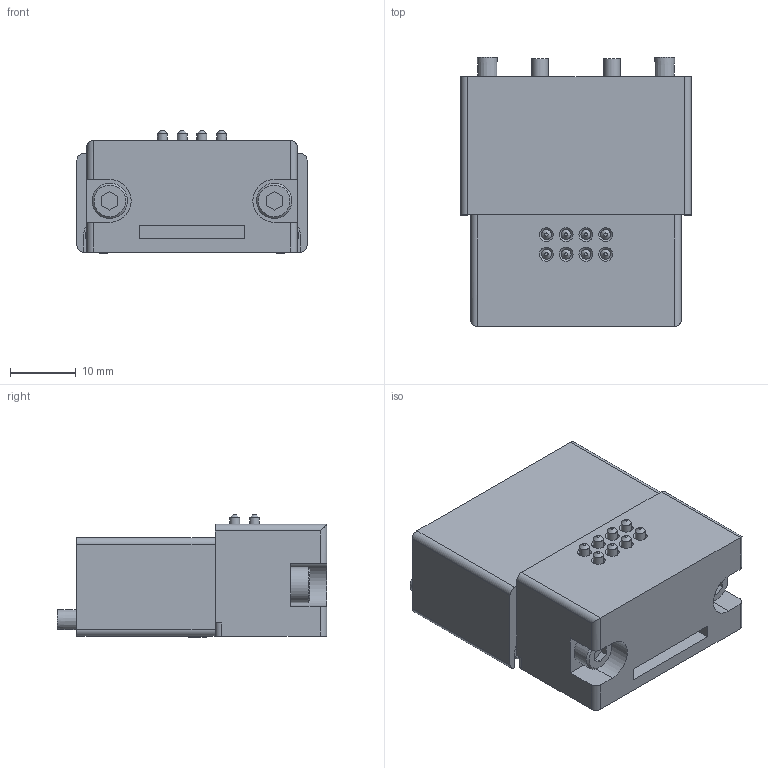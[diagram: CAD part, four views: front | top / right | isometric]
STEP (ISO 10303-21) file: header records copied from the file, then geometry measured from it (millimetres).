
FILE_DESCRIPTION(('STEP AP214'),'1');
FILE_NAME('KHG-12HS-D38_ver1.stp','2026-05-18T00:38:09',(' '),(' '),'Spatial InterOp 3D',' ',' ');
FILE_SCHEMA(('AUTOMOTIVE_DESIGN { 1 0 10303 214 1 1 1 1 }'));
Length unit declared in the file: millimetre
Products named in the file (1): KHG-12HS-D38_ver1
Bounding box: 35 x 41 x 18.7 mm (x, y, z)
Volume: 19183.3 mm3; surface area: 7502.7 mm2
Topology: 1 solids, 9 shells, 239 faces, 542 edges, 346 vertices
Faces by surface type: plane 157, cylinder 54, cone 28
Full cylindrical faces by diameter (mm): 1.5 x8, 2.15 x2, 2.5 x6, 3 x6, 3.5 x4, 5.41 x4
Entity records: 8240 total; most frequent: CARTESIAN_POINT 1120, DIRECTION 1090, ORIENTED_EDGE 948, EDGE_CURVE 474, AXIS2_PLACEMENT_3D 378, VERTEX_POINT 336, LINE 334, VECTOR 334
